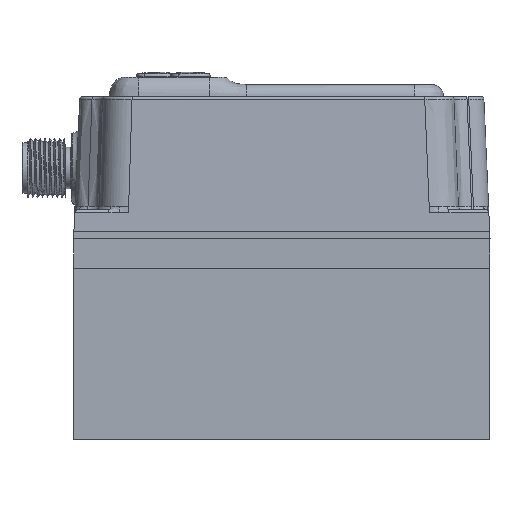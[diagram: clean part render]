
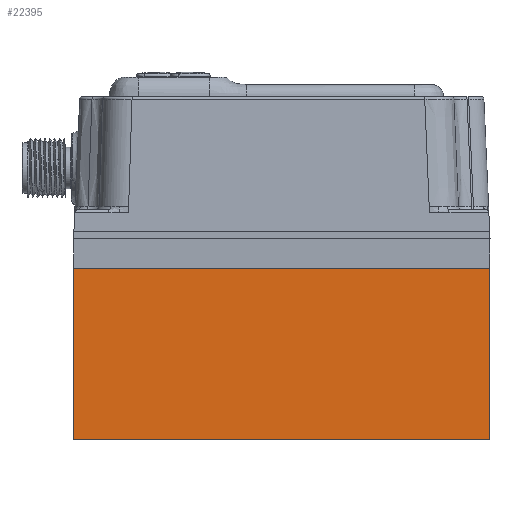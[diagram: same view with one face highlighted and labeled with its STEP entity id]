
A CAD part, front view. The second image highlights one B-rep face of the part: STEP entity #22395.
In plain terms, the highlighted planar face has unit normal (0, -1, 0) as drawn and (-1, 0, 0) by its records, which use the part's own axes.
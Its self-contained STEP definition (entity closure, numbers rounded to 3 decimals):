
#1746 = LINE ( 'NONE', #41519, #41492 ) ;
#2337 = ORIENTED_EDGE ( 'NONE', *, *, #11072, .F. ) ;
#4682 = CARTESIAN_POINT ( 'NONE',  ( -21.5, -17.5, 85. ) ) ;
#6163 = CARTESIAN_POINT ( 'NONE',  ( -21.5, 17.5, 0. ) ) ;
#6531 = VECTOR ( 'NONE', #22456, 1000. ) ;
#7579 = ORIENTED_EDGE ( 'NONE', *, *, #36774, .T. ) ;
#7942 = ORIENTED_EDGE ( 'NONE', *, *, #52845, .F. ) ;
#11072 = EDGE_CURVE ( 'NONE', #29320, #34764, #16854, .T. ) ;
#13693 = FACE_OUTER_BOUND ( 'NONE', #39083, .T. ) ;
#15827 = AXIS2_PLACEMENT_3D ( 'NONE', #42275, #24704, #16696 ) ;
#16696 = DIRECTION ( 'NONE',  ( 0., 1., 0. ) ) ;
#16854 = LINE ( 'NONE', #49447, #42224 ) ;
#20224 = VERTEX_POINT ( 'NONE', #21991 ) ;
#20600 = DIRECTION ( 'NONE',  ( 0., -1., 0. ) ) ;
#21097 = CARTESIAN_POINT ( 'NONE',  ( -21.5, -17.5, 85. ) ) ;
#21991 = CARTESIAN_POINT ( 'NONE',  ( -21.5, 17.5, 0. ) ) ;
#22395 = ADVANCED_FACE ( 'NONE', ( #13693 ), #24962, .F. ) ;
#22456 = DIRECTION ( 'NONE',  ( 0., -1., 0. ) ) ;
#24704 = DIRECTION ( 'NONE',  ( 1., 0., 0. ) ) ;
#24962 = PLANE ( 'NONE',  #15827 ) ;
#29320 = VERTEX_POINT ( 'NONE', #35626 ) ;
#31822 = VERTEX_POINT ( 'NONE', #43424 ) ;
#33673 = EDGE_CURVE ( 'NONE', #29320, #20224, #1746, .T. ) ;
#34058 = DIRECTION ( 'NONE',  ( 0., 0., -1. ) ) ;
#34764 = VERTEX_POINT ( 'NONE', #21097 ) ;
#35263 = DIRECTION ( 'NONE',  ( 0., 0., -1. ) ) ;
#35626 = CARTESIAN_POINT ( 'NONE',  ( -21.5, 17.5, 85. ) ) ;
#36774 = EDGE_CURVE ( 'NONE', #20224, #31822, #43290, .T. ) ;
#38015 = ORIENTED_EDGE ( 'NONE', *, *, #33673, .T. ) ;
#39083 = EDGE_LOOP ( 'NONE', ( #7579, #7942, #2337, #38015 ) ) ;
#41274 = LINE ( 'NONE', #4682, #49115 ) ;
#41492 = VECTOR ( 'NONE', #34058, 1000. ) ;
#41519 = CARTESIAN_POINT ( 'NONE',  ( -21.5, 17.5, 85. ) ) ;
#42224 = VECTOR ( 'NONE', #20600, 1000. ) ;
#42275 = CARTESIAN_POINT ( 'NONE',  ( -21.5, 17.5, 85. ) ) ;
#43290 = LINE ( 'NONE', #6163, #6531 ) ;
#43424 = CARTESIAN_POINT ( 'NONE',  ( -21.5, -17.5, 0. ) ) ;
#49115 = VECTOR ( 'NONE', #35263, 1000. ) ;
#49447 = CARTESIAN_POINT ( 'NONE',  ( -21.5, 17.5, 85. ) ) ;
#52845 = EDGE_CURVE ( 'NONE', #34764, #31822, #41274, .T. ) ;
